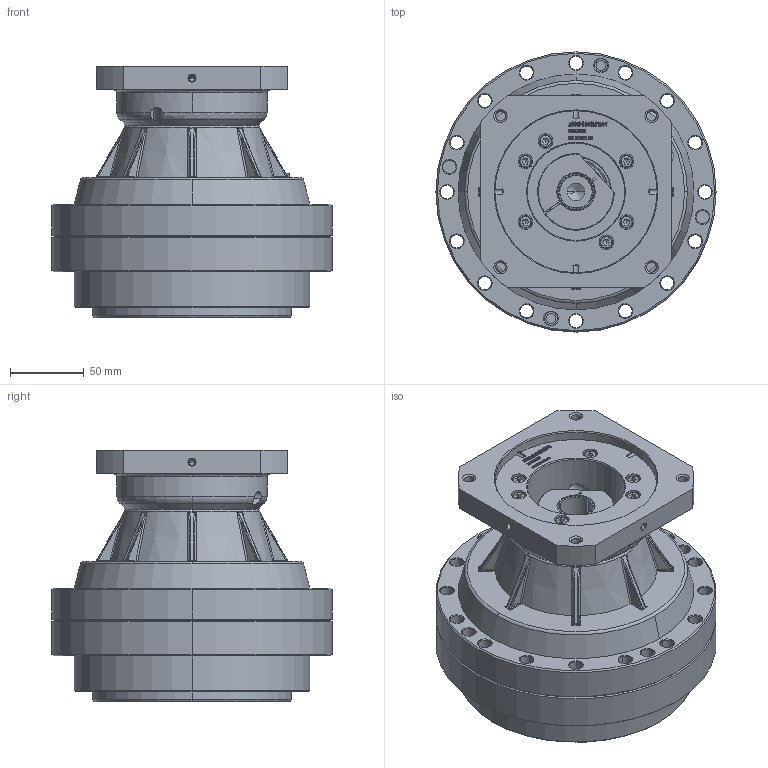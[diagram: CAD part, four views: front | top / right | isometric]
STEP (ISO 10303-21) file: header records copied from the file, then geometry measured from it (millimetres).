
FILE_DESCRIPTION (( 'STEP AP214' ), '1' );
FILE_NAME ('190BX-22-110-145-H42.STEP', '2022-11-12T02:54:22', ( '' ), ( '' ), 'SwSTEP 2.0', 'SolidWorks 2020', '' );
FILE_SCHEMA (( 'AUTOMOTIVE_DESIGN' ));
Length unit declared in the file: millimetre
Products named in the file (10): 190BX-22-110-145-H42; 190BX-22-110-145-H42.stp; 蹟隊 GB_T 70.1 M5 x 20.stp; 锁紧器25-52H15.stp; DIN 908 - M10 x 1.stp; 萇儂假蚾楊擘110-145H42.stp; 錨璃471^190BX-22-110-145-H42; 190BX-OP.stp; 190BX-楊擘A.stp; 蹟隊 GB_T 70.1 M5 x 16.stp
Assembly tree (14 placements, depth 3):
  190BX-22-110-145-H42
    190BX-22-110-145-H42.stp
      190BX-OP.stp
      190BX-楊擘A.stp
      萇儂假蚾楊擘110-145H42.stp
      锁紧器25-52H15.stp
      DIN 908 - M10 x 1.stp
      蹟隊 GB_T 70.1 M5 x 20.stp  x6
      蹟隊 GB_T 70.1 M5 x 16.stp
    錨璃471^190BX-22-110-145-H42
Bounding box: 190 x 190 x 170.5 mm (x, y, z)
Volume: 2463565.6 mm3; surface area: 341570.4 mm2
Topology: 78 solids, 82 shells, 2754 faces, 7238 edges, 4650 vertices
Faces by surface type: plane 1311, bspline 636, cylinder 398, cone 368, torus 41
Entity records: 126268 total; most frequent: CARTESIAN_POINT 45976, ORIENTED_EDGE 13816, DIRECTION 10400, EDGE_CURVE 6908, VERTEX_POINT 4485, LINE 4350, VECTOR 4350, AXIS2_PLACEMENT_3D 3025
